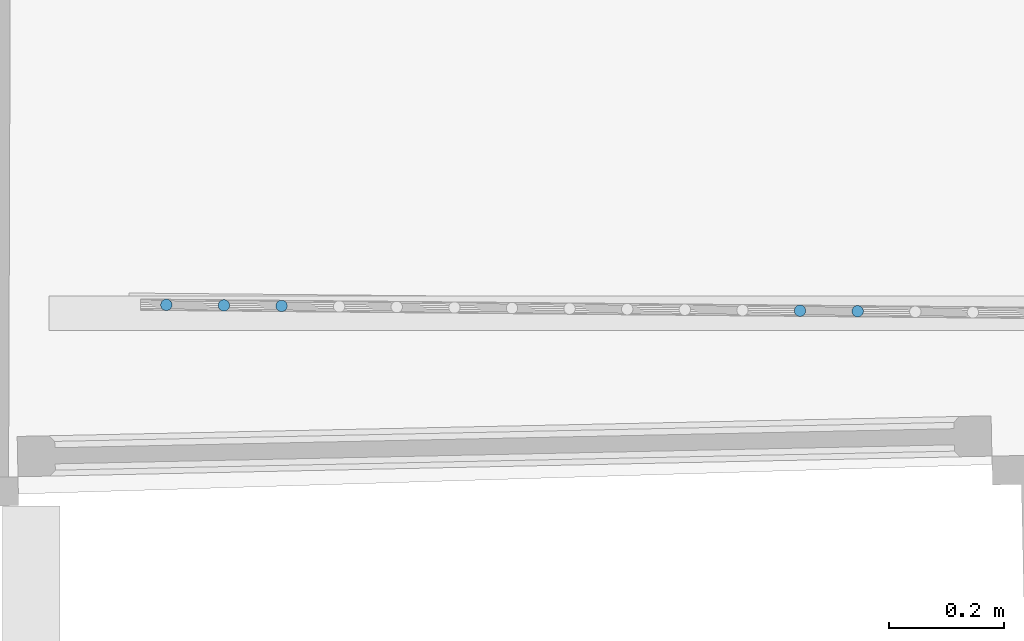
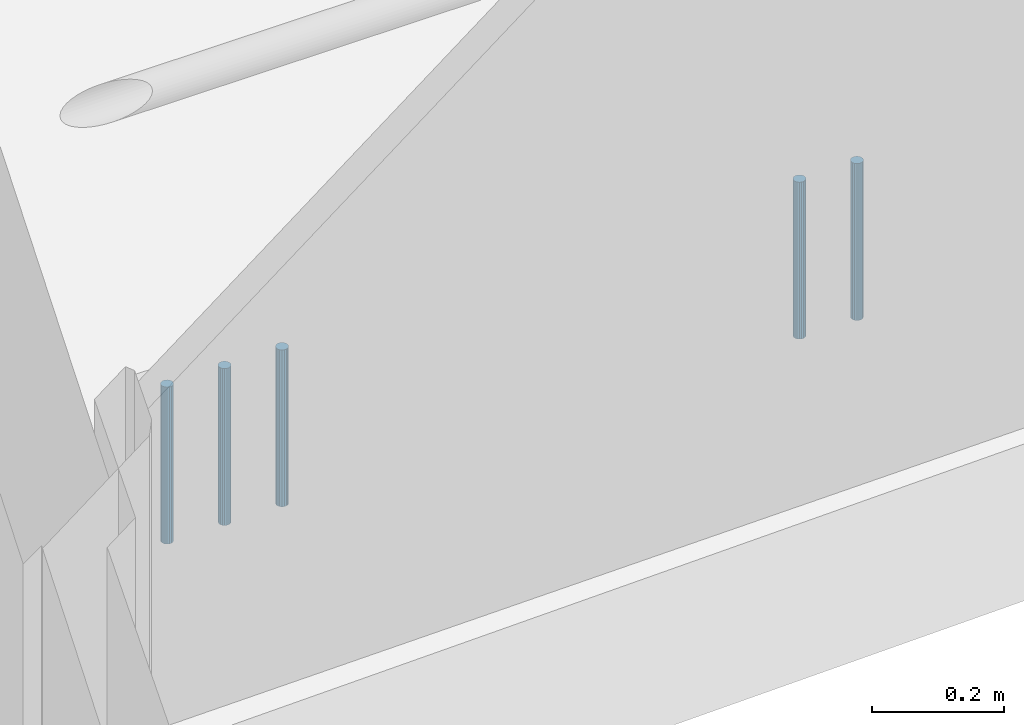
# One storey, part 22 of 66: 5 members, 1 element without a shape of its own.
"""IFC2X3 building model written with IfcOpenShell, lengths in centimetres."""

from ifc_helpers import new_model, entity, si_unit, converted_unit, direction, frame, origin, origin_with_axes, place, context, subcontext, project, spatial, faceted_brep, material, type_object, element, aggregate, save


model = new_model("IFC2X3")

# Units and contexts
model_context = context("Model", 3, precision=0.0001, world=origin(), true_north=direction((0.225632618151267, 0.974212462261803, 0.0)))
body_context = subcontext(model_context, "Body", "Model", "MODEL_VIEW")
ifc_project = project(units=[si_unit("LENGTHUNIT", "METRE", prefix="CENTI"), si_unit("AREAUNIT", "SQUARE_METRE", prefix="CENTI"), si_unit("VOLUMEUNIT", "CUBIC_METRE", prefix="CENTI"), converted_unit("PLANEANGLEUNIT", "DEGREE", entity("IfcRatioMeasure", 0.0174532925), si_unit("PLANEANGLEUNIT", "RADIAN"), dimensions=[0, 0, 0, 0, 0, 0, 0])], contexts=[model_context])

# Site, building, storey
site_placement = place(None, origin_with_axes())
site = spatial("IfcSite", under=ifc_project, at=site_placement, Name="Default Site", CompositionType="ELEMENT")
building_placement = place(site_placement, origin_with_axes())
building = spatial("IfcBuilding", under=site, at=building_placement, Name="Default Building", CompositionType="ELEMENT")
storey_placement = place(building_placement, frame((0.0, 0.0, 477.795358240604), z_axis=(0.0, 0.0, 1.0), x_axis=(1.0, 0.0, 0.0)))
storey = spatial("IfcBuildingStorey", under=building, at=storey_placement, Name="Niveau 1", CompositionType="ELEMENT", Elevation=477.795358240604)

# Assembly, members
building_element_proxy_type = type_object("IfcBuildingElementProxyType", Name="Type Object", PredefinedType="NOTDEFINED")
assembly_placement = place(storey_placement, frame((1081.09889200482, -848.13, 9.99999999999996), z_axis=(0.0, 0.0, 1.0), x_axis=(-0.999957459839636, 0.00922380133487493, 0.0)))
assembly = element("IfcElementAssembly", 1, at=assembly_placement, inside=storey, type_object=building_element_proxy_type, Name="Panneau 1702007", ObjectType="Precast panel", PredefinedType="USERDEFINED")
ifc_material = material(Name="Aluminium satiné")
member_1_placement = place(assembly_placement, frame((37.4396920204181, 0.342020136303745, 31.0000002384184), z_axis=(0.0, 0.0, 1.0), x_axis=(0.499995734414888, -0.866027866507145, 0.0)))
member_1 = element("IfcMember", 2, at=member_1_placement, material=ifc_material, Name="4294967036", context=body_context, shape_type="Brep", body=[
    faceted_brep([(-1.13797860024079e-12, -2.72004641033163e-13, 4.05231403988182e-13), (-0.347295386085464, -2.83106871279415e-13, 4.05231403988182e-13), (-0.673647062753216, -0.118784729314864, 4.05231403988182e-13), (-0.939691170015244, -0.342025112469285, 4.05231403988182e-13), (-1.11333739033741, -0.642792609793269, 4.05231403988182e-13), (-1.17364232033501, -0.984811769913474, 4.05231403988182e-13), (-1.11333370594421, -1.32683238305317, 4.05231403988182e-13), (-0.93968454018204, -1.62759988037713, 4.05231403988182e-13), (-0.673639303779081, -1.8508368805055, 4.05231403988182e-13), (-0.34728660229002, -1.96961709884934, 4.05231403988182e-13), (1.02738977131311e-05, -1.96961451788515, 4.05231403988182e-13), (0.326361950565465, -1.85082978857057, 4.05231403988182e-13), (0.592404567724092, -1.62759198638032, 4.05231403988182e-13), (0.766050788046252, -1.32682448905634, 4.05231403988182e-13), (0.826357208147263, -0.984802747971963, 4.05231403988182e-13), (0.766048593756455, -0.64278213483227, 4.05231403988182e-13), (0.592397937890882, -0.342017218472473, 4.05231403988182e-13), (0.326352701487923, -0.118780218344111, 4.05231403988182e-13), (0.326352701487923, -0.118780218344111, -29.0000002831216), (0.592397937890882, -0.342017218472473, -29.0000002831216), (0.766048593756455, -0.64278213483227, -29.0000002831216), (0.826357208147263, -0.984802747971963, -29.0000002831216), (0.766050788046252, -1.32682448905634, -29.0000002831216), (0.592404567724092, -1.62759198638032, -29.0000002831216), (0.326361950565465, -1.85082978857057, -29.0000002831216), (1.02738977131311e-05, -1.96961451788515, -29.0000002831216), (-0.34728660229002, -1.96961709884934, -29.0000002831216), (-0.673639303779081, -1.8508368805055, -29.0000002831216), (-0.93968454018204, -1.62759988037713, -29.0000002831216), (-1.11333370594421, -1.32683238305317, -29.0000002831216), (-1.17364232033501, -0.984811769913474, -29.0000002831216), (-1.11333739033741, -0.642792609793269, -29.0000002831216), (-0.939691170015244, -0.342025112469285, -29.0000002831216), (-0.673647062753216, -0.118784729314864, -29.0000002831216), (-0.347295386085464, -2.83106871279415e-13, -29.0000002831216), (-1.13797860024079e-12, -2.72004641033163e-13, -29.0000002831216), (0.592398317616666, -0.342016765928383, 4.05231403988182e-13), (0.592398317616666, -0.342016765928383, -29.0000002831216), (0.766047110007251, -0.642782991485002, 4.05231403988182e-13), (0.766047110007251, -0.642782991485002, -29.0000002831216), (0.826357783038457, -0.984802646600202, 4.05231403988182e-13), (0.826357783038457, -0.984802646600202, -29.0000002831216), (0.7660512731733, -1.32682457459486, 4.05231403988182e-13), (0.7660512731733, -1.32682457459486, -29.0000002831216), (0.592404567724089, -1.62759198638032, 4.05231403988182e-13), (0.592404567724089, -1.62759198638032, -29.0000002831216), (0.326362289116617, -1.8508301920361, 4.05231403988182e-13), (0.326362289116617, -1.8508301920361, -29.0000002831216), (1.00742372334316e-05, -1.96961396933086, 4.05231403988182e-13), (1.00742372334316e-05, -1.96961396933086, -29.0000002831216), (-0.3472866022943, -1.96961623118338, 4.05231403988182e-13), (-0.3472866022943, -1.96961623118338, -29.0000002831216), (-0.673639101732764, -1.85083632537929, 4.05231403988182e-13), (-0.673639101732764, -1.85083632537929, -29.0000002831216), (-0.939684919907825, -1.62760033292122, 4.05231403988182e-13), (-0.939684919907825, -1.62760033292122, -29.0000002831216), (-1.11333445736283, -1.32683281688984, 4.05231403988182e-13), (-1.11333445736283, -1.32683281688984, -29.0000002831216), (-1.17364289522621, -0.984811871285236, 4.05231403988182e-13), (-1.17364289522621, -0.984811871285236, -29.0000002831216), (-1.11333687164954, -0.642792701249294, 4.05231403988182e-13), (-1.11333687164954, -0.642792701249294, -29.0000002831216), (-0.939691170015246, -0.342025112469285, 4.05231403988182e-13), (-0.939691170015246, -0.342025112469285, -29.0000002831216), (-0.673646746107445, -0.118785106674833, 4.05231403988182e-13), (-0.673646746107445, -0.118785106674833, -29.0000002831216), (-0.347295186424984, -5.48554575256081e-07, 4.05231403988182e-13), (-0.347295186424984, -5.48554575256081e-07, -29.0000002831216), (-9.59005060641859e-12, 1.71329059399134e-06, 4.05231403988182e-13), (-9.59005060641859e-12, 1.71329059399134e-06, -29.0000002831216), (0.326352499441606, -0.11878077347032, 4.05231403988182e-13), (0.326352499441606, -0.11878077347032, -29.0000002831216)], [[[0, 1, 2, 3, 4, 5, 6, 7, 8, 9, 10, 11, 12, 13, 14, 15, 16, 17]], [[18, 19, 20, 21, 22, 23, 24, 25, 26, 27, 28, 29, 30, 31, 32, 33, 34, 35]], [[17, 36, 37, 18]], [[16, 38, 39, 19]], [[15, 40, 41, 20]], [[14, 42, 43, 21]], [[13, 44, 45, 22]], [[12, 46, 47, 23]], [[11, 48, 49, 24]], [[10, 50, 51, 25]], [[9, 52, 53, 26]], [[8, 54, 55, 27]], [[7, 56, 57, 28]], [[6, 58, 59, 29]], [[5, 60, 61, 30]], [[4, 62, 63, 31]], [[3, 64, 65, 32]], [[2, 66, 67, 33]], [[1, 68, 69, 34]], [[0, 70, 71, 35]]]),
])
member_2_placement = place(assembly_placement, frame((47.4396914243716, 0.342020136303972, 31.0000002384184), z_axis=(0.0, 0.0, 1.0), x_axis=(0.499995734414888, -0.866027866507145, 0.0)))
member_2 = element("IfcMember", 3, at=member_2_placement, material=ifc_material, Name="4294967035", context=body_context, shape_type="Brep", body=[
    faceted_brep([(-1.08524300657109e-12, -4.16333634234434e-13, 4.05231403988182e-13), (-0.347295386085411, -4.32986979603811e-13, 4.05231403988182e-13), (-0.673647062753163, -0.118784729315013, 4.05231403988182e-13), (-0.939689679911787, -0.342022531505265, 4.05231403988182e-13), (-1.11333739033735, -0.642792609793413, 4.05231403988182e-13), (-1.17364232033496, -0.984811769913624, 4.05231403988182e-13), (-1.11333370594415, -1.32683238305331, 4.05231403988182e-13), (-0.939684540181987, -1.62759988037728, 4.05231403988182e-13), (-0.67363781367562, -1.85083429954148, 4.05231403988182e-13), (-0.347286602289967, -1.96961709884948, 4.05231403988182e-13), (1.02738977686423e-05, -1.9696145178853, 4.05231403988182e-13), (0.326361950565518, -1.85082978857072, 4.05231403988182e-13), (0.592404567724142, -1.62759198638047, 4.05231403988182e-13), (0.766052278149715, -1.32682190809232, 4.05231403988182e-13), (0.826357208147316, -0.984802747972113, 4.05231403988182e-13), (0.766048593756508, -0.64278213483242, 4.05231403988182e-13), (0.592397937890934, -0.342017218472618, 4.05231403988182e-13), (0.326352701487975, -0.118780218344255, 4.05231403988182e-13), (0.326352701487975, -0.118780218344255, -29.0000002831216), (0.592397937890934, -0.342017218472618, -29.0000002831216), (0.766048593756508, -0.64278213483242, -29.0000002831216), (0.826357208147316, -0.984802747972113, -29.0000002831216), (0.766052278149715, -1.32682190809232, -29.0000002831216), (0.592404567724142, -1.62759198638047, -29.0000002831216), (0.326361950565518, -1.85082978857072, -29.0000002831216), (1.02738977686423e-05, -1.9696145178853, -29.0000002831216), (-0.347286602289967, -1.96961709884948, -29.0000002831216), (-0.67363781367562, -1.85083429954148, -29.0000002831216), (-0.939684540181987, -1.62759988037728, -29.0000002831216), (-1.11333370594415, -1.32683238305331, -29.0000002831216), (-1.17364232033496, -0.984811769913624, -29.0000002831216), (-1.11333739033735, -0.642792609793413, -29.0000002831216), (-0.939689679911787, -0.342022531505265, -29.0000002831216), (-0.673647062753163, -0.118784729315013, -29.0000002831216), (-0.347295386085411, -4.32986979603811e-13, -29.0000002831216), (-1.08524300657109e-12, -4.16333634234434e-13, -29.0000002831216), (0.592398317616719, -0.342016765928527, 4.05231403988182e-13), (0.592398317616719, -0.342016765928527, -29.0000002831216), (0.766047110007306, -0.64278299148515, 4.05231403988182e-13), (0.766047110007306, -0.64278299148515, -29.0000002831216), (0.82635778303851, -0.984802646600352, 4.05231403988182e-13), (0.82635778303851, -0.984802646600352, -29.0000002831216), (0.766051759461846, -1.32682181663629, 4.05231403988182e-13), (0.766051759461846, -1.32682181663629, -29.0000002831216), (0.592404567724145, -1.62759198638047, 4.05231403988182e-13), (0.592404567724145, -1.62759198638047, -29.0000002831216), (0.326362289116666, -1.85083019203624, 4.05231403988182e-13), (0.326362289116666, -1.85083019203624, -29.0000002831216), (1.00742372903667e-05, -1.96961396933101, 4.05231403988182e-13), (1.00742372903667e-05, -1.96961396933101, -29.0000002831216), (-0.347286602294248, -1.96961623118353, 4.05231403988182e-13), (-0.347286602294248, -1.96961623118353, -29.0000002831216), (-0.673638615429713, -1.85083650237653, 4.05231403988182e-13), (-0.673638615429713, -1.85083650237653, -29.0000002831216), (-0.939683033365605, -1.6275980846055, 4.05231403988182e-13), (-0.939683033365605, -1.6275980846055, -29.0000002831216), (-1.11333445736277, -1.32683281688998, 4.05231403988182e-13), (-1.11333445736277, -1.32683281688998, -29.0000002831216), (-1.17364289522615, -0.984811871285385, 4.05231403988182e-13), (-1.17364289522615, -0.984811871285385, -29.0000002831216), (-1.11333687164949, -0.642792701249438, 4.05231403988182e-13), (-1.11333687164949, -0.642792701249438, -29.0000002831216), (-0.939689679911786, -0.342022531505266, 4.05231403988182e-13), (-0.939689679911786, -0.342022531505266, -29.0000002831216), (-0.673647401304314, -0.11878432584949, 4.05231403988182e-13), (-0.673647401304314, -0.11878432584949, -29.0000002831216), (-0.347295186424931, -5.48554725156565e-07, 4.05231403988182e-13), (-0.347295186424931, -5.48554725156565e-07, -29.0000002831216), (-9.53731498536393e-12, 1.71329044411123e-06, 4.05231403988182e-13), (-9.53731498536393e-12, 1.71329044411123e-06, -29.0000002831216), (0.326352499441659, -0.118780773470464, 4.05231403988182e-13), (0.326352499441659, -0.118780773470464, -29.0000002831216)], [[[0, 1, 2, 3, 4, 5, 6, 7, 8, 9, 10, 11, 12, 13, 14, 15, 16, 17]], [[18, 19, 20, 21, 22, 23, 24, 25, 26, 27, 28, 29, 30, 31, 32, 33, 34, 35]], [[17, 36, 37, 18]], [[16, 38, 39, 19]], [[15, 40, 41, 20]], [[14, 42, 43, 21]], [[13, 44, 45, 22]], [[12, 46, 47, 23]], [[11, 48, 49, 24]], [[10, 50, 51, 25]], [[9, 52, 53, 26]], [[8, 54, 55, 27]], [[7, 56, 57, 28]], [[6, 58, 59, 29]], [[5, 60, 61, 30]], [[4, 62, 63, 31]], [[3, 64, 65, 32]], [[2, 66, 67, 33]], [[1, 68, 69, 34]], [[0, 70, 71, 35]]]),
])
member_3_placement = place(assembly_placement, frame((137.439692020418, 0.342020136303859, 31.0000002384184), z_axis=(0.0, 0.0, 1.0), x_axis=(0.500008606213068, -0.866020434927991, 0.0)))
member_3 = element("IfcMember", 4, at=member_3_placement, material=ifc_material, Name="4294967026", context=body_context, shape_type="Brep", body=[
    faceted_brep([(-1.0991207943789e-12, -4.44089209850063e-13, 4.32986979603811e-13), (-0.347298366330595, -5.99520433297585e-13, 4.32986979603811e-13), (-0.673648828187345, -0.118774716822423, 4.32986979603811e-13), (-0.93969327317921, -0.34200598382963, 4.32986979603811e-13), (-1.11334843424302, -0.642778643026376, 4.32986979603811e-13), (-1.17365695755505, -0.98479432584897, 4.32986979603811e-13), (-1.11335640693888, -1.32682099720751, 4.32986979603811e-13), (-0.939707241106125, -1.62758333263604, 4.32986979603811e-13), (-0.673665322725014, -1.85082428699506, 4.32986979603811e-13), (-0.347314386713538, -1.96960935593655, 4.32986979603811e-13), (-2.19809511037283e-05, -1.96961967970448, 4.32986979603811e-13), (0.32633444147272, -1.85083463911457, 4.32986979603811e-13), (0.592378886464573, -1.62760337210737, 4.32986979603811e-13), (0.766034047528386, -1.32683071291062, 4.32986979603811e-13), (0.826342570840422, -0.984815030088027, 4.32986979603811e-13), (0.766036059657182, -0.64279868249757, 4.32986979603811e-13), (0.592392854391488, -0.342026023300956, 4.32986979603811e-13), (0.326350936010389, -0.118785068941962, 4.32986979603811e-13), (0.326350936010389, -0.118785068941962, -29.0000002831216), (0.592392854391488, -0.342026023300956, -29.0000002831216), (0.766036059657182, -0.64279868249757, -29.0000002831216), (0.826342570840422, -0.984815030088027, -29.0000002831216), (0.766034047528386, -1.32683071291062, -29.0000002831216), (0.592378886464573, -1.62760337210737, -29.0000002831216), (0.32633444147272, -1.85083463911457, -29.0000002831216), (-2.19809511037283e-05, -1.96961967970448, -29.0000002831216), (-0.347314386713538, -1.96960935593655, -29.0000002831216), (-0.673665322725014, -1.85082428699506, -29.0000002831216), (-0.939707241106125, -1.62758333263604, -29.0000002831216), (-1.11335640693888, -1.32682099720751, -29.0000002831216), (-1.17365695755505, -0.98479432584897, -29.0000002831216), (-1.11334843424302, -0.642778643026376, -29.0000002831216), (-0.93969327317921, -0.34200598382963, -29.0000002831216), (-0.673648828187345, -0.118774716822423, -29.0000002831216), (-0.347298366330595, -5.99520433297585e-13, -29.0000002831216), (-1.0991207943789e-12, -4.44089209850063e-13, -29.0000002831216), (0.592393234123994, -0.342025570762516, 4.32986979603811e-13), (0.592393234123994, -0.342025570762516, -29.0000002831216), (0.766039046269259, -0.642796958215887, 4.32986979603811e-13), (0.766039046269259, -0.642796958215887, -29.0000002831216), (0.826339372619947, -0.984815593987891, 4.32986979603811e-13), (0.826339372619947, -0.984815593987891, -29.0000002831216), (0.766032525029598, -1.32683044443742, 4.32986979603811e-13), (0.766032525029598, -1.32683044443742, -29.0000002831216), (0.592378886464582, -1.62760337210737, 4.32986979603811e-13), (0.592378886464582, -1.62760337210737, -29.0000002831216), (0.326335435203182, -1.85083582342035, 4.32986979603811e-13), (0.326335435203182, -1.85083582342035, -29.0000002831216), (-2.34909537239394e-05, -1.9696155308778, 4.32986979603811e-13), (-2.34909537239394e-05, -1.9696155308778, -29.0000002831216), (-0.347314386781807, -1.96961623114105, 4.32986979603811e-13), (-0.347314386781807, -1.96961623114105, -29.0000002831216), (-0.673665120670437, -1.85082373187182, 4.32986979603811e-13), (-0.673665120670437, -1.85082373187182, -29.0000002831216), (-0.939707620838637, -1.62758378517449, 4.32986979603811e-13), (-0.939707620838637, -1.62758378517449, -29.0000002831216), (-1.11335045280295, -1.32681755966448, 4.32986979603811e-13), (-1.11335045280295, -1.32681755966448, -29.0000002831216), (-1.1736613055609, -0.984795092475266, 4.32986979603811e-13), (-1.1736613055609, -0.984795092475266, -29.0000002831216), (-1.11334691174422, -0.642778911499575, 4.32986979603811e-13), (-1.11334691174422, -0.642778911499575, -29.0000002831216), (-0.939693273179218, -0.342005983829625, 4.32986979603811e-13), (-0.939693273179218, -0.342005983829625, -29.0000002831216), (-0.673649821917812, -0.11877353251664, 4.32986979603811e-13), (-0.673649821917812, -0.11877353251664, -29.0000002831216), (-0.347299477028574, 3.05171159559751e-06, 4.32986979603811e-13), (-0.347299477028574, 3.05171159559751e-06, -29.0000002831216), (-3.53434467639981e-11, -3.44862321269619e-06, 4.32986979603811e-13), (-3.53434467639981e-11, -3.44862321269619e-06, -29.0000002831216), (0.326350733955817, -0.118785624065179, 4.32986979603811e-13), (0.326350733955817, -0.118785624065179, -29.0000002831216)], [[[0, 1, 2, 3, 4, 5, 6, 7, 8, 9, 10, 11, 12, 13, 14, 15, 16, 17]], [[18, 19, 20, 21, 22, 23, 24, 25, 26, 27, 28, 29, 30, 31, 32, 33, 34, 35]], [[17, 36, 37, 18]], [[16, 38, 39, 19]], [[15, 40, 41, 20]], [[14, 42, 43, 21]], [[13, 44, 45, 22]], [[12, 46, 47, 23]], [[11, 48, 49, 24]], [[10, 50, 51, 25]], [[9, 52, 53, 26]], [[8, 54, 55, 27]], [[7, 56, 57, 28]], [[6, 58, 59, 29]], [[5, 60, 61, 30]], [[4, 62, 63, 31]], [[3, 64, 65, 32]], [[2, 66, 67, 33]], [[1, 68, 69, 34]], [[0, 70, 71, 35]]]),
])
member_4_placement = place(assembly_placement, frame((147.439694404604, 0.342020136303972, 31.0000002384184), z_axis=(0.0, 0.0, 1.0), x_axis=(0.500008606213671, -0.866020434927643, 0.0)))
member_4 = element("IfcMember", 5, at=member_4_placement, material=ifc_material, Name="4294967025", context=body_context, shape_type="Brep", body=[
    faceted_brep([(-1.01030295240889e-12, -3.77475828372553e-13, 4.10782519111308e-13), (-0.347298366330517, -3.10862446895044e-13, 4.10782519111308e-13), (-0.673648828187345, -0.118774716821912, 4.10782519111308e-13), (-0.939699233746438, -0.342016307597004, 4.10782519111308e-13), (-1.11334843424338, -0.642778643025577, 4.10782519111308e-13), (-1.17365695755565, -0.984794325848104, 4.10782519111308e-13), (-1.11335640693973, -1.32682099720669, 4.10782519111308e-13), (-0.939707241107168, -1.62758333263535, 4.10782519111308e-13), (-0.673665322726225, -1.85082428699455, 4.10782519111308e-13), (-0.347314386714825, -1.96960935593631, 4.10782519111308e-13), (-2.1980952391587e-05, -1.96961967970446, 4.10782519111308e-13), (0.326334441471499, -1.85083463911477, 4.10782519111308e-13), (0.592378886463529, -1.62760337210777, 4.10782519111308e-13), (0.766028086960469, -1.32684103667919, 4.10782519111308e-13), (0.8263425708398, -0.984815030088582, 4.10782519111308e-13), (0.766036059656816, -0.64279868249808, 4.10782519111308e-13), (0.592392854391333, -0.342026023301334, 4.10782519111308e-13), (0.326350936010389, -0.11878506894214, 4.10782519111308e-13), (0.326350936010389, -0.11878506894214, -29.0000002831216), (0.592392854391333, -0.342026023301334, -29.0000002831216), (0.766036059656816, -0.64279868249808, -29.0000002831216), (0.8263425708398, -0.984815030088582, -29.0000002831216), (0.766028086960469, -1.32684103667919, -29.0000002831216), (0.592378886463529, -1.62760337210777, -29.0000002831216), (0.326334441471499, -1.85083463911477, -29.0000002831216), (-2.1980952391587e-05, -1.96961967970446, -29.0000002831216), (-0.347314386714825, -1.96960935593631, -29.0000002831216), (-0.673665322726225, -1.85082428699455, -29.0000002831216), (-0.939707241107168, -1.62758333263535, -29.0000002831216), (-1.11335640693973, -1.32682099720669, -29.0000002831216), (-1.17365695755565, -0.984794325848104, -29.0000002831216), (-1.11334843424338, -0.642778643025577, -29.0000002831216), (-0.939699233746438, -0.342016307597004, -29.0000002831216), (-0.673648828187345, -0.118774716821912, -29.0000002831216), (-0.347298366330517, -3.10862446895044e-13, -29.0000002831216), (-1.01030295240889e-12, -3.77475828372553e-13, -29.0000002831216), (0.592393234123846, -0.342025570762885, 4.10782519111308e-13), (0.592393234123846, -0.342025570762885, -29.0000002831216), (0.766039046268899, -0.642796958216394, 4.10782519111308e-13), (0.766039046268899, -0.642796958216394, -29.0000002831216), (0.826339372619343, -0.984815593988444, 4.10782519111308e-13), (0.826339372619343, -0.984815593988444, -29.0000002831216), (0.766030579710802, -1.32684147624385, 4.10782519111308e-13), (0.766030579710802, -1.32684147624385, -29.0000002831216), (0.592378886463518, -1.62760337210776, 4.10782519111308e-13), (0.592378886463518, -1.62760337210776, -29.0000002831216), (0.326335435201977, -1.85083582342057, 4.10782519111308e-13), (0.326335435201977, -1.85083582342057, -29.0000002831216), (-2.34909550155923e-05, -1.96961553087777, 4.10782519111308e-13), (-2.34909550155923e-05, -1.96961553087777, -29.0000002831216), (-0.347314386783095, -1.96961623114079, 4.10782519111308e-13), (-0.347314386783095, -1.96961623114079, -29.0000002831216), (-0.673665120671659, -1.85082373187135, 4.10782519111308e-13), (-0.673665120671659, -1.85082373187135, -29.0000002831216), (-0.939707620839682, -1.6275837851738, 4.10782519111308e-13), (-0.939707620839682, -1.6275837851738, -29.0000002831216), (-1.11335045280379, -1.32681755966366, 4.10782519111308e-13), (-1.11335045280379, -1.32681755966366, -29.0000002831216), (-1.17366130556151, -0.984795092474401, 4.10782519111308e-13), (-1.17366130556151, -0.984795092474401, -29.0000002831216), (-1.11334691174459, -0.642778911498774, 4.10782519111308e-13), (-1.11334691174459, -0.642778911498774, -29.0000002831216), (-0.939699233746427, -0.34201630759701, 4.10782519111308e-13), (-0.939699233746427, -0.34201630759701, -29.0000002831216), (-0.673647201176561, -0.118776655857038, 4.10782519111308e-13), (-0.673647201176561, -0.118776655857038, -29.0000002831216), (-0.347299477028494, 3.05171187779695e-06, 4.10782519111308e-13), (-0.347299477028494, 3.05171187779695e-06, -29.0000002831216), (-3.52546315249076e-11, -3.44862316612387e-06, 4.10782519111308e-13), (-3.52546315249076e-11, -3.44862316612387e-06, -29.0000002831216), (0.326350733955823, -0.11878562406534, 4.10782519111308e-13), (0.326350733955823, -0.11878562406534, -29.0000002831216)], [[[0, 1, 2, 3, 4, 5, 6, 7, 8, 9, 10, 11, 12, 13, 14, 15, 16, 17]], [[18, 19, 20, 21, 22, 23, 24, 25, 26, 27, 28, 29, 30, 31, 32, 33, 34, 35]], [[17, 36, 37, 18]], [[16, 38, 39, 19]], [[15, 40, 41, 20]], [[14, 42, 43, 21]], [[13, 44, 45, 22]], [[12, 46, 47, 23]], [[11, 48, 49, 24]], [[10, 50, 51, 25]], [[9, 52, 53, 26]], [[8, 54, 55, 27]], [[7, 56, 57, 28]], [[6, 58, 59, 29]], [[5, 60, 61, 30]], [[4, 62, 63, 31]], [[3, 64, 65, 32]], [[2, 66, 67, 33]], [[1, 68, 69, 34]], [[0, 70, 71, 35]]]),
])
member_5_placement = place(assembly_placement, frame((157.43969678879, 0.342020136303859, 31.0000002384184), z_axis=(0.0, 0.0, 1.0), x_axis=(0.500008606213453, -0.866020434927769, 0.0)))
member_5 = element("IfcMember", 6, at=member_5_placement, material=ifc_material, Name="4294967024", context=body_context, shape_type="Brep", body=[
    faceted_brep([(-1.08801856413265e-12, -4.44089209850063e-13, 5.05151476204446e-13), (-0.347298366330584, -4.44089209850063e-13, 5.05151476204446e-13), (-0.673648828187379, -0.118774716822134, 5.05151476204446e-13), (-0.939699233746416, -0.342016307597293, 5.05151476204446e-13), (-1.11334843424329, -0.642778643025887, 5.05151476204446e-13), (-1.17366291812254, -0.984804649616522, 5.05151476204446e-13), (-1.11335640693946, -1.32682099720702, 5.05151476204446e-13), (-0.939713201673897, -1.6275936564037, 5.05151476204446e-13), (-0.673671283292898, -1.85083461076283, 5.05151476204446e-13), (-0.347320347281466, -1.96961967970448, 5.05151476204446e-13), (-2.19809519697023e-05, -1.96961967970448, 5.05151476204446e-13), (0.326328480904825, -1.85084496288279, 5.05151476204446e-13), (0.592378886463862, -1.62760337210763, 5.05151476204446e-13), (0.766028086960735, -1.32684103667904, 5.05151476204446e-13), (0.826342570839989, -0.984815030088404, 5.05151476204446e-13), (0.766036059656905, -0.642798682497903, 5.05151476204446e-13), (0.592392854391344, -0.342026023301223, 5.05151476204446e-13), (0.326350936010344, -0.118785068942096, 5.05151476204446e-13), (0.326350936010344, -0.118785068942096, -29.0000002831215), (0.592392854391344, -0.342026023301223, -29.0000002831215), (0.766036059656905, -0.642798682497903, -29.0000002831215), (0.826342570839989, -0.984815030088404, -29.0000002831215), (0.766028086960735, -1.32684103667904, -29.0000002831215), (0.592378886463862, -1.62760337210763, -29.0000002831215), (0.326328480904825, -1.85084496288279, -29.0000002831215), (-2.19809519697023e-05, -1.96961967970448, -29.0000002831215), (-0.347320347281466, -1.96961967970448, -29.0000002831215), (-0.673671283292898, -1.85083461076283, -29.0000002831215), (-0.939713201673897, -1.6275936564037, -29.0000002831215), (-1.11335640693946, -1.32682099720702, -29.0000002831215), (-1.17366291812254, -0.984804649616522, -29.0000002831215), (-1.11334843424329, -0.642778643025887, -29.0000002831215), (-0.939699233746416, -0.342016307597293, -29.0000002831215), (-0.673648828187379, -0.118774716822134, -29.0000002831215), (-0.347298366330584, -4.44089209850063e-13, -29.0000002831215), (-1.08801856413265e-12, -4.44089209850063e-13, -29.0000002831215), (0.592393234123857, -0.342025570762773, 5.05151476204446e-13), (0.592393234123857, -0.342025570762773, -29.0000002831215), (0.766039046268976, -0.642796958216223, 5.05151476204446e-13), (0.766039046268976, -0.642796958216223, -29.0000002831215), (0.826339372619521, -0.984815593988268, 5.05151476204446e-13), (0.826339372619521, -0.984815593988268, -29.0000002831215), (0.766030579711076, -1.32684147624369, 5.05151476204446e-13), (0.766030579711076, -1.32684147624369, -29.0000002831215), (0.592378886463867, -1.62760337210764, 5.05151476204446e-13), (0.592378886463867, -1.62760337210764, -29.0000002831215), (0.326326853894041, -1.85084302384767, 5.05151476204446e-13), (0.326326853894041, -1.85084302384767, -29.0000002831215), (-2.08702539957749e-05, -1.96962273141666, 5.05151476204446e-13), (-2.08702539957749e-05, -1.96962273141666, -29.0000002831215), (-0.347320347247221, -1.96961623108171, 5.05151476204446e-13), (-0.347320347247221, -1.96961623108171, -29.0000002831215), (-0.673671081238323, -1.8508340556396, 5.05151476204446e-13), (-0.673671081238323, -1.8508340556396, -29.0000002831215), (-0.939713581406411, -1.62759410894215, 5.05151476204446e-13), (-0.939713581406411, -1.62759410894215, -29.0000002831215), (-1.11335939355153, -1.3268227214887, 5.05151476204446e-13), (-1.11335939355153, -1.3268227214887, -29.0000002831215), (-1.17365971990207, -0.984804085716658, 5.05151476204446e-13), (-1.17365971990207, -0.984804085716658, -29.0000002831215), (-1.11335092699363, -0.642778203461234, 5.05151476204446e-13), (-1.11335092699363, -0.642778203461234, -29.0000002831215), (-0.939699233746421, -0.34201630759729, 5.05151476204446e-13), (-0.939699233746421, -0.34201630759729, -29.0000002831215), (-0.673647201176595, -0.11877665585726, 5.05151476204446e-13), (-0.673647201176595, -0.11877665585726, -29.0000002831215), (-0.347299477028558, 3.05171173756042e-06, 5.05151476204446e-13), (-0.347299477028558, 3.05171173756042e-06, -29.0000002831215), (-3.53323460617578e-11, -3.44862321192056e-06, 5.05151476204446e-13), (-3.53323460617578e-11, -3.44862321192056e-06, -29.0000002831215), (0.326350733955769, -0.118785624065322, 5.05151476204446e-13), (0.326350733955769, -0.118785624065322, -29.0000002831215)], [[[0, 1, 2, 3, 4, 5, 6, 7, 8, 9, 10, 11, 12, 13, 14, 15, 16, 17]], [[18, 19, 20, 21, 22, 23, 24, 25, 26, 27, 28, 29, 30, 31, 32, 33, 34, 35]], [[17, 36, 37, 18]], [[16, 38, 39, 19]], [[15, 40, 41, 20]], [[14, 42, 43, 21]], [[13, 44, 45, 22]], [[12, 46, 47, 23]], [[11, 48, 49, 24]], [[10, 50, 51, 25]], [[9, 52, 53, 26]], [[8, 54, 55, 27]], [[7, 56, 57, 28]], [[6, 58, 59, 29]], [[5, 60, 61, 30]], [[4, 62, 63, 31]], [[3, 64, 65, 32]], [[2, 66, 67, 33]], [[1, 68, 69, 34]], [[0, 70, 71, 35]]]),
])
aggregate(assembly, [member_1, member_2, member_3, member_4, member_5])

save(model, "model.ifc")
